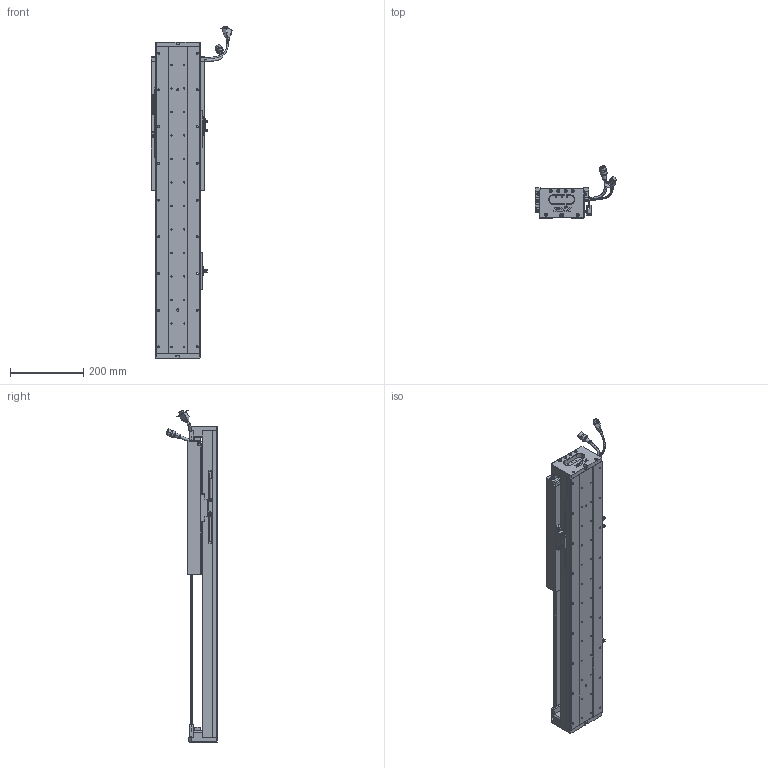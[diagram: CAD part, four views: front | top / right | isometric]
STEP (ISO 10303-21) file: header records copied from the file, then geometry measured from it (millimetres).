
FILE_DESCRIPTION (( 'STEP AP203' ), '1' );
FILE_NAME ('Z5-RY120D-1-L500-B-K.SLDASM_0400.step', '2021-05-17T06:21:12', ( '盈信电脑' ), ( '东莞市道滘镇水果街19号' ), 'SwSTEP 2.0', 'SolidWorks 2016', '' );
FILE_SCHEMA (( 'CONFIG_CONTROL_DESIGN' ));
Length unit declared in the file: millimetre
Products named in the file (37): SCALE-Part-2; SCREW-M1.6-3; PBU_SHEET; COVER; 672嫖萇羲壽假蚾釱; 榋妏寠巭燃_暯_M2_2; SEAL-Part-1; HOLDER0; LABEL-Part-1; Z-RY120D詩湍奻揤裔; 覜茼ん672; SHIELDPLATE; Z-RY120D詩湍狟揤裔; HARNESS-Part-1; SCREW-M1.6-1; RY100FB-遵嫖萇覜茼え; SCALE; SCREW-M1.6; HARNESS; SCREW-M1.7-1; 140蚥薯蝶輸; COVER-Part-1; 120-Z-臏賑輸盄裔(21遴); 140雄赽晤鎢ん堤盄; SCALE-Part-1; Z5-RY120-500-倰第菁釱_0400; SCREW-M1.7; Z5-RY120D-1-L500-B-K.SLDASM_0400; PSLH080_PSLF2; Z5-RY120铝滑块（21款）; HARNESS-Part-2; Z5-RY120-L500詩湍100mm遵_0400; SCREW-M1.6-2; LABEL; SEAL; 080黍杅芛假蚾釱21遴; Z-120詩湍傷裔啣
Assembly tree (43 placements, depth 4):
  Z5-RY120D-1-L500-B-K.SLDASM_0400
    Z5-RY120-500-倰第菁釱_0400
    覜茼ん672  x3
    672嫖萇羲壽假蚾釱  x2
    Z5-RY120铝滑块（21款）
    PSLH080_PSLF2
      SCALE
        SCALE-Part-1
        SCALE-Part-2
      HARNESS
        HARNESS-Part-1
        HARNESS-Part-2
      LABEL
        LABEL-Part-1
      COVER
        COVER-Part-1
      SEAL
        SEAL-Part-1
      榋妏寠巭燃_暯_M2_2
      SHIELDPLATE
      SCREW-M1.7
      SCREW-M1.7-1
      PBU_SHEET
      SCREW-M1.6
      SCREW-M1.6-1
      SCREW-M1.6-2
      SCREW-M1.6-3
      HOLDER0
    080黍杅芛假蚾釱21遴
    120-Z-臏賑輸盄裔(21遴)
    140雄赽晤鎢ん堤盄
    140蚥薯蝶輸  x2
    RY100FB-遵嫖萇覜茼え
    Z-120詩湍傷裔啣  x2
    Z-RY120D詩湍奻揤裔  x2
    Z-RY120D詩湍狟揤裔  x2
    Z5-RY120-L500詩湍100mm遵_0400
Bounding box: 222.88 x 140.94 x 904 mm (x, y, z)
Volume: 3055156.1 mm3; surface area: 947420.7 mm2
Topology: 38 solids, 38 shells, 2789 faces, 7475 edges, 4728 vertices
Faces by surface type: cylinder 1279, plane 1122, cone 266, torus 69, bspline 53
Entity records: 82800 total; most frequent: CARTESIAN_POINT 21541, ORIENTED_EDGE 11942, DIRECTION 11893, EDGE_CURVE 5971, AXIS2_PLACEMENT_3D 4366, VERTEX_POINT 3848, VECTOR 3161, LINE 3161
